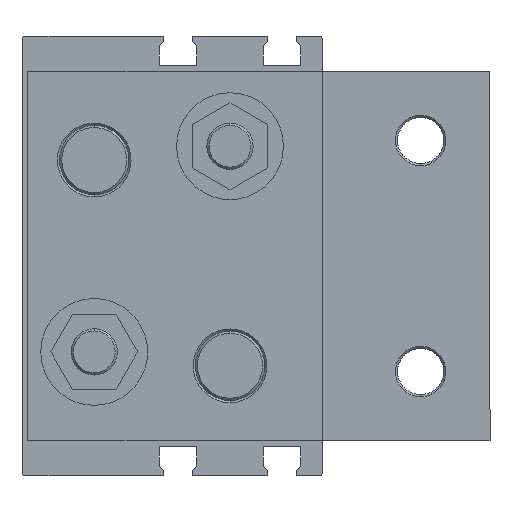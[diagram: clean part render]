
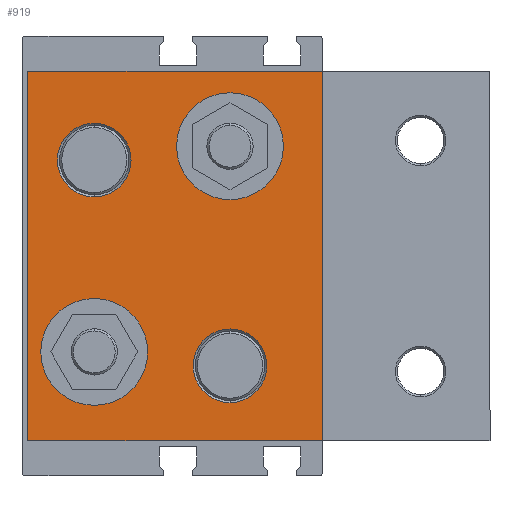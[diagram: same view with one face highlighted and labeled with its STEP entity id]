
A CAD part, left-side view. The second image highlights one B-rep face of the part: STEP entity #919.
In plain terms, the highlighted planar face has unit normal (-1, 0, 0) as drawn and (1, 0, 0) by its records, which use the part's own axes.
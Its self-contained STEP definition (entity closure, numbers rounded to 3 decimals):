
#136 = EDGE_CURVE ( 'NONE', #6478, #6936, #5636, .T. ) ;
#186 = FACE_OUTER_BOUND ( 'NONE', #944, .T. ) ;
#197 = ORIENTED_EDGE ( 'NONE', *, *, #2986, .T. ) ;
#277 = AXIS2_PLACEMENT_3D ( 'NONE', #3814, #3845, #3873 ) ;
#280 = DIRECTION ( 'NONE',  ( 1., 0., 0. ) ) ;
#306 = DIRECTION ( 'NONE',  ( 1., 0., 0. ) ) ;
#349 = ORIENTED_EDGE ( 'NONE', *, *, #2705, .F. ) ;
#353 = DIRECTION ( 'NONE',  ( 0., 0., 1. ) ) ;
#372 = CARTESIAN_POINT ( 'NONE',  ( 21., -51., 32. ) ) ;
#386 = CIRCLE ( 'NONE', #277, 9.25 ) ;
#409 = ORIENTED_EDGE ( 'NONE', *, *, #136, .F. ) ;
#425 = VERTEX_POINT ( 'NONE', #372 ) ;
#466 = CARTESIAN_POINT ( 'NONE',  ( 21., -44.25, -19. ) ) ;
#502 = CARTESIAN_POINT ( 'NONE',  ( 21., -11.5, -16.6 ) ) ;
#584 = DIRECTION ( 'NONE',  ( 1., 0., 0. ) ) ;
#657 = LINE ( 'NONE', #6304, #6801 ) ;
#670 = DIRECTION ( 'NONE',  ( 0., 0., -1. ) ) ;
#724 = ORIENTED_EDGE ( 'NONE', *, *, #6632, .T. ) ;
#742 = CARTESIAN_POINT ( 'NONE',  ( 21., -2.25, 16.6 ) ) ;
#902 = EDGE_CURVE ( 'NONE', #3132, #4473, #386, .T. ) ;
#919 = ADVANCED_FACE ( 'NONE', ( #186, #4743, #5111, #3195, #6364 ), #4240, .F. ) ;
#944 = EDGE_LOOP ( 'NONE', ( #197, #6318, #3829, #724 ) ) ;
#992 = VERTEX_POINT ( 'NONE', #7328 ) ;
#1019 = VERTEX_POINT ( 'NONE', #1834 ) ;
#1033 = EDGE_CURVE ( 'NONE', #6936, #6478, #2100, .T. ) ;
#1064 = DIRECTION ( 'NONE',  ( 0., 0., 1. ) ) ;
#1121 = DIRECTION ( 'NONE',  ( 0., 0., -1. ) ) ;
#1188 = ORIENTED_EDGE ( 'NONE', *, *, #7569, .F. ) ;
#1292 = DIRECTION ( 'NONE',  ( 1., 0., 0. ) ) ;
#1311 = DIRECTION ( 'NONE',  ( 1., 0., 0. ) ) ;
#1328 = DIRECTION ( 'NONE',  ( 0., 1., 0. ) ) ;
#1707 = CARTESIAN_POINT ( 'NONE',  ( 21., -20.75, 16.6 ) ) ;
#1794 = EDGE_LOOP ( 'NONE', ( #6743, #7668 ) ) ;
#1834 = CARTESIAN_POINT ( 'NONE',  ( 21., 0., -32. ) ) ;
#1873 = AXIS2_PLACEMENT_3D ( 'NONE', #502, #4631, #1121 ) ;
#1907 = EDGE_LOOP ( 'NONE', ( #409, #6203 ) ) ;
#2018 = CARTESIAN_POINT ( 'NONE',  ( 21., -35., 19. ) ) ;
#2064 = DIRECTION ( 'NONE',  ( 1., 0., 0. ) ) ;
#2100 = CIRCLE ( 'NONE', #3376, 6.375 ) ;
#2134 = VERTEX_POINT ( 'NONE', #3223 ) ;
#2227 = VERTEX_POINT ( 'NONE', #1707 ) ;
#2229 = EDGE_CURVE ( 'NONE', #3584, #992, #4442, .T. ) ;
#2283 = CARTESIAN_POINT ( 'NONE',  ( 21., -51., 32. ) ) ;
#2384 = VECTOR ( 'NONE', #2405, 1000. ) ;
#2405 = DIRECTION ( 'NONE',  ( 0., 1., 0. ) ) ;
#2705 = EDGE_CURVE ( 'NONE', #7408, #2227, #2909, .T. ) ;
#2739 = CARTESIAN_POINT ( 'NONE',  ( 21., -25.75, -19. ) ) ;
#2746 = LINE ( 'NONE', #2283, #7122 ) ;
#2766 = AXIS2_PLACEMENT_3D ( 'NONE', #3883, #306, #4445 ) ;
#2889 = CARTESIAN_POINT ( 'NONE',  ( 21., -35., 25.375 ) ) ;
#2909 = CIRCLE ( 'NONE', #4931, 9.25 ) ;
#2986 = EDGE_CURVE ( 'NONE', #1019, #4318, #657, .T. ) ;
#3132 = VERTEX_POINT ( 'NONE', #466 ) ;
#3195 = FACE_BOUND ( 'NONE', #1907, .T. ) ;
#3223 = CARTESIAN_POINT ( 'NONE',  ( 21., -51., -32. ) ) ;
#3376 = AXIS2_PLACEMENT_3D ( 'NONE', #2018, #280, #4968 ) ;
#3584 = VERTEX_POINT ( 'NONE', #6423 ) ;
#3655 = CIRCLE ( 'NONE', #6293, 6.375 ) ;
#3814 = CARTESIAN_POINT ( 'NONE',  ( 21., -35., -19. ) ) ;
#3829 = ORIENTED_EDGE ( 'NONE', *, *, #7276, .F. ) ;
#3845 = DIRECTION ( 'NONE',  ( 1., 0., 0. ) ) ;
#3873 = DIRECTION ( 'NONE',  ( 0., 1., 0. ) ) ;
#3883 = CARTESIAN_POINT ( 'NONE',  ( 21., -35., -19. ) ) ;
#3974 = DIRECTION ( 'NONE',  ( -1., 0., 0. ) ) ;
#4134 = CARTESIAN_POINT ( 'NONE',  ( 21., -11.5, 16.6 ) ) ;
#4183 = CIRCLE ( 'NONE', #2766, 9.25 ) ;
#4240 = PLANE ( 'NONE',  #5504 ) ;
#4318 = VERTEX_POINT ( 'NONE', #6701 ) ;
#4319 = CARTESIAN_POINT ( 'NONE',  ( 21., -51., 32. ) ) ;
#4381 = DIRECTION ( 'NONE',  ( 0., 0., 1. ) ) ;
#4442 = CIRCLE ( 'NONE', #1873, 6.375 ) ;
#4445 = DIRECTION ( 'NONE',  ( 0., 1., 0. ) ) ;
#4473 = VERTEX_POINT ( 'NONE', #2739 ) ;
#4631 = DIRECTION ( 'NONE',  ( 1., 0., 0. ) ) ;
#4697 = CARTESIAN_POINT ( 'NONE',  ( 21., 0., 32. ) ) ;
#4721 = DIRECTION ( 'NONE',  ( 0., 1., 0. ) ) ;
#4743 = FACE_BOUND ( 'NONE', #5428, .T. ) ;
#4817 = CARTESIAN_POINT ( 'NONE',  ( 21., 0., -32. ) ) ;
#4820 = CARTESIAN_POINT ( 'NONE',  ( 21., -11.5, -16.6 ) ) ;
#4931 = AXIS2_PLACEMENT_3D ( 'NONE', #5587, #2064, #6197 ) ;
#4968 = DIRECTION ( 'NONE',  ( 0., 0., -1. ) ) ;
#5029 = CIRCLE ( 'NONE', #7779, 9.25 ) ;
#5111 = FACE_BOUND ( 'NONE', #5193, .T. ) ;
#5193 = EDGE_LOOP ( 'NONE', ( #1188, #7148 ) ) ;
#5221 = VECTOR ( 'NONE', #1328, 1000. ) ;
#5419 = LINE ( 'NONE', #4817, #5221 ) ;
#5428 = EDGE_LOOP ( 'NONE', ( #349, #7425 ) ) ;
#5435 = DIRECTION ( 'NONE',  ( 0., 0., -1. ) ) ;
#5504 = AXIS2_PLACEMENT_3D ( 'NONE', #4319, #3974, #4381 ) ;
#5587 = CARTESIAN_POINT ( 'NONE',  ( 21., -11.5, 16.6 ) ) ;
#5602 = EDGE_CURVE ( 'NONE', #2227, #7408, #5029, .T. ) ;
#5636 = CIRCLE ( 'NONE', #5670, 6.375 ) ;
#5670 = AXIS2_PLACEMENT_3D ( 'NONE', #6653, #1292, #670 ) ;
#6029 = EDGE_CURVE ( 'NONE', #992, #3584, #3655, .T. ) ;
#6197 = DIRECTION ( 'NONE',  ( 0., 1., 0. ) ) ;
#6203 = ORIENTED_EDGE ( 'NONE', *, *, #1033, .F. ) ;
#6293 = AXIS2_PLACEMENT_3D ( 'NONE', #4820, #1311, #5435 ) ;
#6304 = CARTESIAN_POINT ( 'NONE',  ( 21., 0., 32. ) ) ;
#6318 = ORIENTED_EDGE ( 'NONE', *, *, #7380, .F. ) ;
#6364 = FACE_BOUND ( 'NONE', #1794, .T. ) ;
#6423 = CARTESIAN_POINT ( 'NONE',  ( 21., -11.5, -22.975 ) ) ;
#6478 = VERTEX_POINT ( 'NONE', #7787 ) ;
#6632 = EDGE_CURVE ( 'NONE', #2134, #1019, #5419, .T. ) ;
#6653 = CARTESIAN_POINT ( 'NONE',  ( 21., -35., 19. ) ) ;
#6701 = CARTESIAN_POINT ( 'NONE',  ( 21., 0., 32. ) ) ;
#6724 = LINE ( 'NONE', #4697, #2384 ) ;
#6743 = ORIENTED_EDGE ( 'NONE', *, *, #2229, .F. ) ;
#6801 = VECTOR ( 'NONE', #353, 1000. ) ;
#6936 = VERTEX_POINT ( 'NONE', #2889 ) ;
#7122 = VECTOR ( 'NONE', #1064, 1000. ) ;
#7148 = ORIENTED_EDGE ( 'NONE', *, *, #902, .F. ) ;
#7276 = EDGE_CURVE ( 'NONE', #2134, #425, #2746, .T. ) ;
#7328 = CARTESIAN_POINT ( 'NONE',  ( 21., -11.5, -10.225 ) ) ;
#7380 = EDGE_CURVE ( 'NONE', #425, #4318, #6724, .T. ) ;
#7408 = VERTEX_POINT ( 'NONE', #742 ) ;
#7425 = ORIENTED_EDGE ( 'NONE', *, *, #5602, .F. ) ;
#7569 = EDGE_CURVE ( 'NONE', #4473, #3132, #4183, .T. ) ;
#7668 = ORIENTED_EDGE ( 'NONE', *, *, #6029, .F. ) ;
#7779 = AXIS2_PLACEMENT_3D ( 'NONE', #4134, #584, #4721 ) ;
#7787 = CARTESIAN_POINT ( 'NONE',  ( 21., -35., 12.625 ) ) ;
